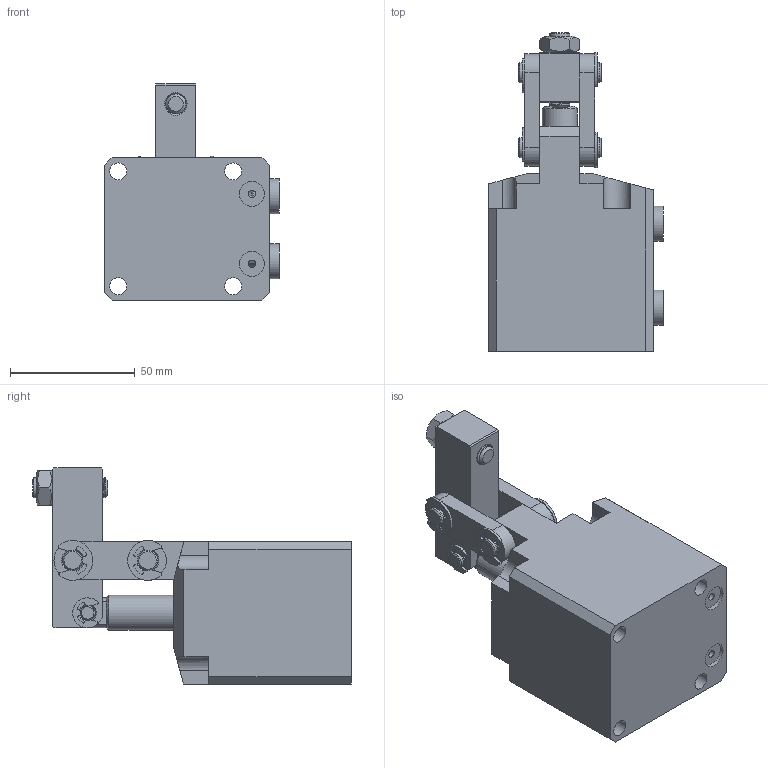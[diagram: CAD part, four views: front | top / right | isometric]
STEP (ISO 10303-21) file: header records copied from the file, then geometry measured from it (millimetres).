
FILE_DESCRIPTION(/* description */ ('STEP AP214'),/* implementation_level */ '2;1');
FILE_NAME(/* name */ 'D:\Vault_2016\Projekty\Clamptek\Hydraulic\CBLU\CBLU-35\STEP\CBLU-35GL.stp',/* time_stamp */ '2021-05-06T12:29:04+02:00',/* author */ ('user'),/* organization */ (''),/* preprocessor_version */ 'ST-DEVELOPER v18.1',/* originating_system */ 'Autodesk Inventor 2021',/* authorisation */ '');
FILE_SCHEMA (('AUTOMOTIVE_DESIGN { 1 0 10303 214 3 1 1 }'));
Length unit declared in the file: millimetre
Products named in the file (12): CBLU-35GL; ±¾ÌåCL_1_3_1; »îÈû¸Ë_2_1_2_1; Á¬¸Ë_2_1; 35Ñ¹±Û; ¶ÌÏúÖá_2_1; ³¤ÏúÖá_2_1; e rings gb_GB_CONNECTING_PIECE_RINGS_HR 6_2_1; e rings gb_GB_CONNECTING_PIECE_RINGS_HR 8_2_1; ÂÝË¿2_2; M8ÂÝÄ¸2; Áã¼þ2_3_1
Assembly tree (18 placements, depth 2):
  CBLU-35GL
    ±¾ÌåCL_1_3_1
    »îÈû¸Ë_2_1_2_1
    Á¬¸Ë_2_1  x2
    35Ñ¹±Û
    ¶ÌÏúÖá_2_1
    ³¤ÏúÖá_2_1  x2
    e rings gb_GB_CONNECTING_PIECE_RINGS_HR 6_2_1  x2
    e rings gb_GB_CONNECTING_PIECE_RINGS_HR 8_2_1  x4
    Áã¼þ2_3_1  x2
    ÂÝË¿2_2
    M8ÂÝÄ¸2
Bounding box: 70 x 127.5 x 86.5 mm (x, y, z)
Volume: 257579 mm3; surface area: 61210.3 mm2
Topology: 18 solids, 18 shells, 361 faces, 893 edges, 589 vertices
Faces by surface type: plane 168, cylinder 147, cone 38, bspline 8
Full cylindrical faces by diameter (mm): 2.5 x2, 3 x1, 5 x2, 6 x6, 6.8 x4, 7 x4, 8 x34, 9 x2, 10 x2, 14 x4, 35 x2
Entity records: 10800 total; most frequent: CARTESIAN_POINT 4362, DIRECTION 1268, ORIENTED_EDGE 1198, EDGE_CURVE 599, AXIS2_PLACEMENT_3D 472, VERTEX_POINT 394, LINE 324, VECTOR 324
